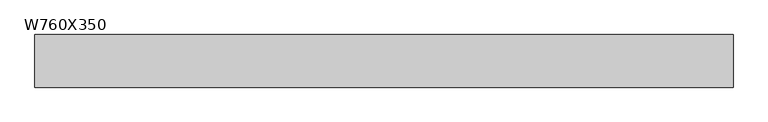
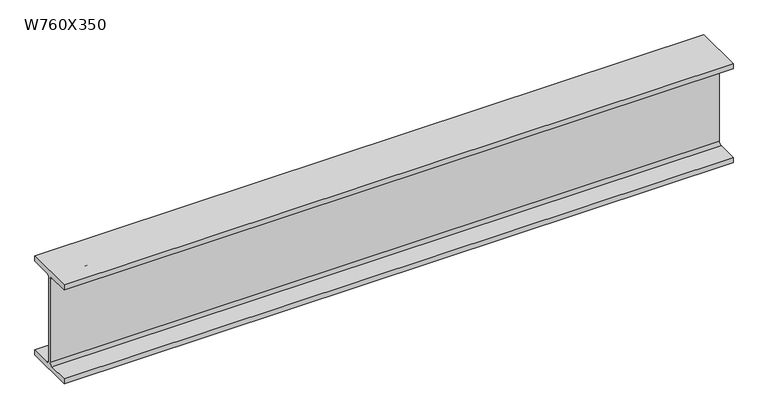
"""IFC4 building model written with IfcOpenShell, lengths in millimetres: beam geometry, M_W-Wide Flange : W760X350."""

from ifc_helpers import new_model, si_unit, point, frame, frame_2d, origin, place, context, project, spatial, polyline, circle_curve, trimmed, segment, composite_curve, outline, extrude, source, transform, mapped, element, save


def w760x350_f2c5e80b(model_context):
    return source(origin(), model_context, "Body", "SweptSolid", [
        extrude(outline(composite_curve([segment(polyline([(192.0, -359.4), (192.0, -397.5), (-192.0, -397.5), (-192.0, -359.4), (-32.75, -359.4)]), True, "CONTINUOUS"), segment(trimmed(circle_curve(frame_2d((-32.75, -337.2)), 22.2), [point((-32.75, -359.4))], [point((-10.55, -337.2))], True, "CARTESIAN"), True, "CONTINUOUS"), segment(polyline([(-10.55, -337.2), (-10.55, 337.2)]), True, "CONTINUOUS"), segment(trimmed(circle_curve(frame_2d((-32.75, 337.2)), 22.2), [point((-10.55, 337.2))], [point((-32.75, 359.4))], True, "CARTESIAN"), True, "CONTINUOUS"), segment(polyline([(-32.75, 359.4), (-192.0, 359.4), (-192.0, 397.5), (192.0, 397.5), (192.0, 359.4), (32.75, 359.4)]), True, "CONTINUOUS"), segment(trimmed(circle_curve(frame_2d((32.75, 337.2)), 22.2), [point((32.75, 359.4))], [point((10.55, 337.2))], True, "CARTESIAN"), True, "CONTINUOUS"), segment(polyline([(10.55, 337.2), (10.55, -337.2)]), True, "CONTINUOUS"), segment(trimmed(circle_curve(frame_2d((32.75, -337.2)), 22.2), [point((10.55, -337.2))], [point((32.75, -359.4))], True, "CARTESIAN"), True, "CONTINUOUS"), segment(polyline([(32.75, -359.4), (192.0, -359.4)]), True, "CONTINUOUS")], self_intersect=False)), frame((-3447.6039591, 0.0, 0.0), z_axis=(1.0, 0.0, 0.0), x_axis=(0.0, 1.0, 0.0)), (0.0, 0.0, 1.0), 5096.2571608),
    ])


if __name__ == "__main__":
    model = new_model("IFC4")
    model_context = context("Model", 3, world=origin())
    ifc_project = project(units=[si_unit("LENGTHUNIT", "METRE", prefix="MILLI")], contexts=[model_context])
    site = spatial("IfcSite", under=ifc_project)
    building = spatial("IfcBuilding", under=site)
    placement = place(None, origin())
    w760x350_shape = w760x350_f2c5e80b(model_context)
    element("IfcBeam", 1, ObjectType="M_W-Wide Flange : W760X350", at=placement, inside=building, context=model_context, shape_type="MappedRepresentation", body=[
        mapped(w760x350_shape, transform((0.0, 0.0, 0.0), x_axis=(1.0, 0.0, 0.0), y_axis=(0.0, 1.0, 0.0), z_axis=(0.0, 0.0, 1.0))),
    ])
    save(model, "model.ifc")
